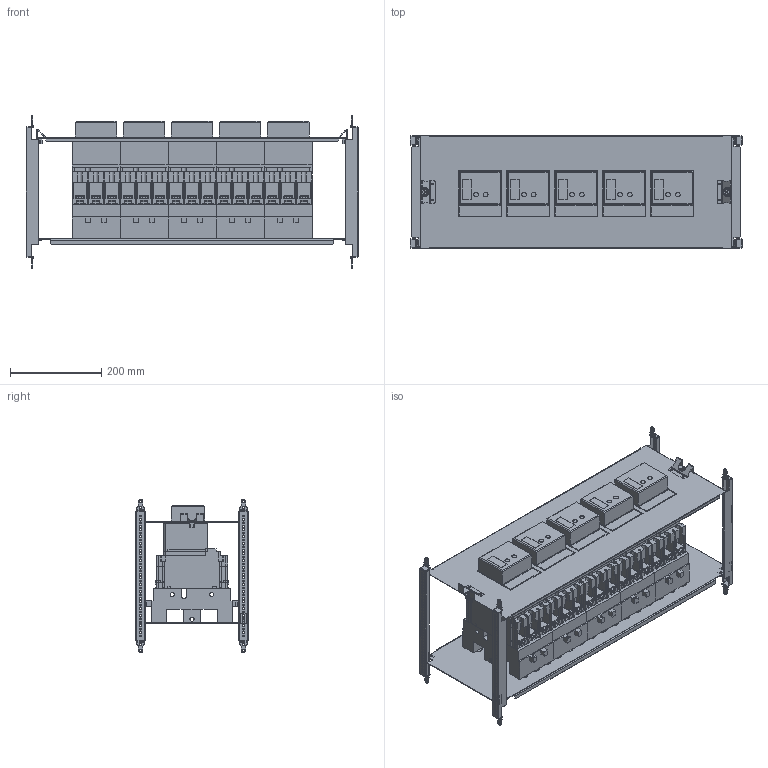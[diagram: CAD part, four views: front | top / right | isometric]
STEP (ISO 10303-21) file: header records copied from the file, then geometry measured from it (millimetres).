
FILE_DESCRIPTION(('CAx-IF Rec.Pracs.---Model Styling and Organization---1.2---2011-12-15','CAx-IF Rec.Pracs.---Geometric and Assembly Validation Properties---4.1---2014-06-16','CAx-IF Rec.Pracs.---PMI Polyline Presentation---2.0---2013-05-24'),'2;1');
FILE_NAME('R5PKIB7V82213 (P-MO).stp','2021-07-29T03:22:31+03:00',(''),(''),'STEP Interface 4.4 by CT CoreTechnologie','3D_Evolution4.4 by CT CoreTechnologie','');
FILE_SCHEMA(('AUTOMOTIVE_DESIGN { 1 0 10303 214 1 1 1 1 }'));
Length unit declared in the file: millimetre
Products named in the file (1): R5PKIB7V82213 (P-MO)
Bounding box: 726 x 248 x 335 mm (x, y, z)
Surface area: 2415745.9 mm2 (no closed solid volume)
Topology: 0 solids, 80 shells, 5090 faces, 14784 edges, 9932 vertices
Faces by surface type: plane 4033, cylinder 880, bspline 177
Entity records: 168685 total; most frequent: CARTESIAN_POINT 31879, ORIENTED_EDGE 29502, DIRECTION 26500, EDGE_CURVE 14766, VECTOR 12680, LINE 12680, VERTEX_POINT 10017, AXIS2_PLACEMENT_3D 6910
